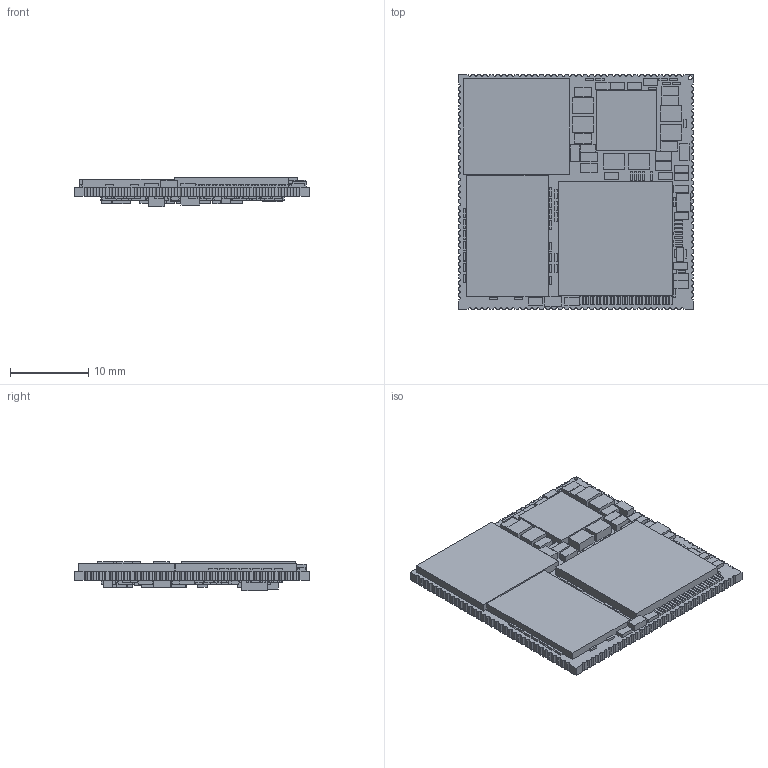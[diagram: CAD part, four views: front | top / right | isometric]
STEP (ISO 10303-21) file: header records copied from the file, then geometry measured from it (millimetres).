
FILE_DESCRIPTION (( 'STEP AP203' ), '1' );
FILE_NAME ('MCM_iMX8mini_1R0_asm.STEP', '2020-03-16T16:01:25', ( 'Windows User' ), ( '' ), 'SwSTEP 2.0', 'SolidWorks 2015', '' );
FILE_SCHEMA (( 'CONFIG_CONTROL_DESIGN' ));
Length unit declared in the file: millimetre
Products named in the file (49): 163K04104S_RESNET8P0805_163K04104S; 161B56231S_RC0201_161B56231S; 161C93111S_0402_rnd_161C93111S; 151B22610S_0603_151B22610S; 147A1R005S_Ind2_5x2x1_2_147A1R005S; 111L53000S_BGA-200-08-10x15_111L53000S; 161C10021S_0402_rnd_161C10021S; 151D22200S_0402_rnd_151D22200S; 161C30021S_0402_rnd_161C30021S; 151B10600S_0402_rnd_151B10600S; 123V3R300S_DFN1.2x1.3-04-6_123V3R300S; 161C33R05S_0402_rnd_161C33R05S; 115A01100S_BGA-486-05-14x14_115A01100S; 161C15033S_0402_rnd_161C15033S; 151C10500S_0402_rnd_151C10500S; 116B00360S_QFN3X3-16-1_116B00360S; MCM_iMX8mini_1R0_asm; 141B24606S_OSC_1_6x1_2_141B24606S; 151D18000S_0402_rnd_151D18000S; 141B32301I_XTAL3_2x1_5_141B32301I; 161C47035S_0402_rnd_161C47035S; 161C30001S_0402_rnd_161C30001S; 151E47000S_0402_rnd_151E47000S; 161C10045S_0402_rnd_161C10045S; 161B33R01S_RC0201_161B33R01S; 111S31001S_WLCSP4_111S31001S; 161C20001S_0402_rnd_161C20001S; 123M0R702S_uqfn56_0p4_7x7_ep_s185_123M0R702S; 147AR4700S_Ind2_5x2x1_2_147AR4700S; 161B10021S_RC0201_161B10021S; 161B10031S_RC0201_161B10031S; 139A10260S_LED_0603_139A10260S; 106N20190S_SC-70-6_106N20190S; 161C00005S_0402_rnd_161C00005S; 151B104B0S_RC0201_151B104B0S; 116A01041S_BGA-12-05-2_1x2_6_116A01041S; 161B15001S_RC0201_161B15001S; 111M33201S_MO-276AB_111M33201S; MCM_iMX8mini_1R0_board; 151D10000S_0402_rnd_151D10000S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
Assembly tree (356 placements, depth 2):
  MCM_iMX8mini_1R0_asm
    MCM_iMX8mini_1R0_board
    106N20190S_SC-70-6_106N20190S
    111L53000S_BGA-200-08-10x15_111L53000S
    111M33201S_MO-276AB_111M33201S
    111S31001S_WLCSP4_111S31001S
    115A01100S_BGA-486-05-14x14_115A01100S
    116A01041S_BGA-12-05-2_1x2_6_116A01041S
    116B00360S_QFN3X3-16-1_116B00360S
    117A63200S_SOT23-5_117A63200S
    123M0R702S_uqfn56_0p4_7x7_ep_s185_123M0R702S
    123V3R300S_DFN1.2x1.3-04-6_123V3R300S
    139A10260S_LED_0603_139A10260S
    141B24606S_OSC_1_6x1_2_141B24606S
    141B32301I_XTAL3_2x1_5_141B32301I  x2
    147A1R005S_Ind2_5x2x1_2_147A1R005S
    147AR4700S_Ind2_5x2x1_2_147AR4700S  x5
    151B104B0S_RC0201_151B104B0S  x116
    151B10600S_0402_rnd_151B10600S  x40
    151B10610S_0603_151B10610S
    151B22610S_0603_151B22610S  x19
    151C10300S_0402_rnd_151C10300S  x2
    151C10500S_0402_rnd_151C10500S  x10
    151D10000S_0402_rnd_151D10000S  x2
    151D18000S_0402_rnd_151D18000S  x3
    151D22200S_0402_rnd_151D22200S
    151D4R700S_0402_compulab_151D4R700S  x2
    151E47000S_0402_rnd_151E47000S
    161B00001S_RC0201_161B00001S  x21
    161B10021S_RC0201_161B10021S  x70
    161B10031S_RC0201_161B10031S  x3
    161B15001S_RC0201_161B15001S  x2
    161B24001S_RC0201_161B24001S  x3
    161B33R01S_RC0201_161B33R01S  x7
    161B47511S_RC0201_161B47511S  x4
    161B56231S_RC0201_161B56231S
    161C00005S_0402_rnd_161C00005S  x10
    161C10021S_0402_rnd_161C10021S
    161C10045S_0402_rnd_161C10045S
    161C15011S_0402_rnd_161C15011S
    161C15033S_0402_rnd_161C15033S
    161C20001S_0402_rnd_161C20001S  x2
    161C30001S_0402_rnd_161C30001S
    161C30021S_0402_rnd_161C30021S  x2
    161C33R05S_0402_rnd_161C33R05S  x3
    161C47035S_0402_rnd_161C47035S
    161C82511S_0402_rnd_161C82511S  x2
    161C93111S_0402_rnd_161C93111S
    163K04104S_RESNET8P0805_163K04104S
Bounding box: 30 x 30 x 3.73 mm (x, y, z)
Volume: 1947.8 mm3; surface area: 4823.3 mm2
Topology: 356 solids, 356 shells, 2453 faces, 5223 edges, 3482 vertices
Faces by surface type: plane 2276, cylinder 177
Entity records: 33294 total; most frequent: DIRECTION 3809, CARTESIAN_POINT 3509, ORIENTED_EDGE 3054, EDGE_CURVE 1527, AXIS2_PLACEMENT_3D 1318, LINE 1173, VECTOR 1173, VERTEX_POINT 1018
